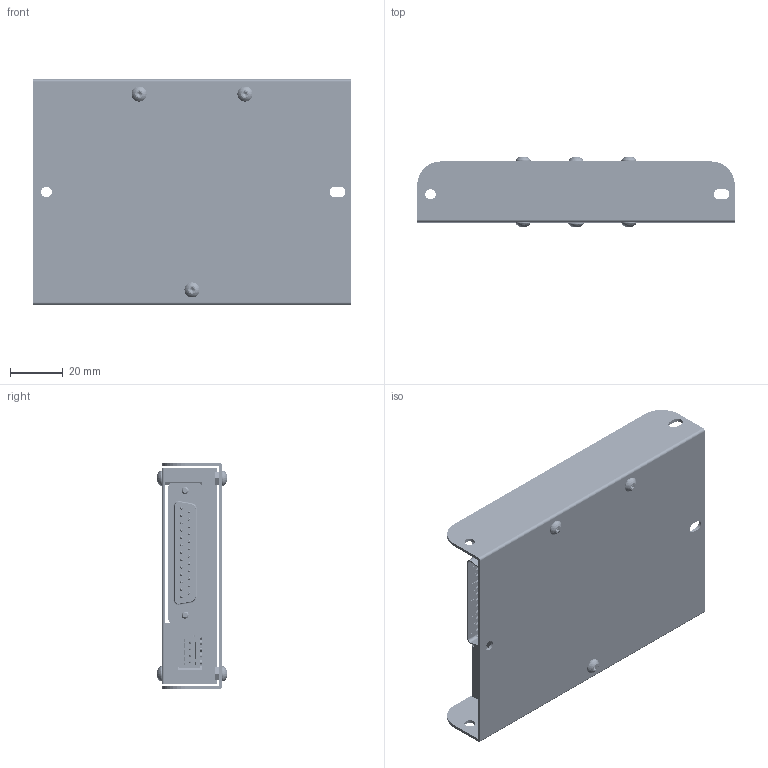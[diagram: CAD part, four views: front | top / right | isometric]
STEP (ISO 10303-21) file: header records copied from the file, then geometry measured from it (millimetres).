
FILE_DESCRIPTION (( 'STEP AP203' ), '1' );
FILE_NAME ('CuaETH_XY2.STEP', '2010-09-16T05:34:52', ( '' ), ( '' ), 'SwSTEP 2.0', 'SolidWorks 2011', '' );
FILE_SCHEMA (( 'CONFIG_CONTROL_DESIGN' ));
Products named in the file (14): CuaETH_XY2; XPort; Pin; 25SubD_M; DHS25-MA1; 14150_Défaut; socket button head screw_iso_ISO 7380 - M3 x 6 --- 6S; socket button head screw_iso_ISO 7380 - M3 x 12 --- 12S; Enclosure_Bottom; Enclosure_Top_Eth_XY2; Spacer_M3x05; Spacer_M3x14; 25-SubD; PcbBoard
Assembly tree (44 placements, depth 2):
  CuaETH_XY2
    Spacer_M3x14  x3
    Pin  x25
    25SubD_M
    14150_Défaut
    socket button head screw_iso_ISO 7380 - M3 x 12 --- 12S  x3
    25-SubD
    socket button head screw_iso_ISO 7380 - M3 x 6 --- 6S  x3
    Enclosure_Bottom
    PcbBoard
    Spacer_M3x05  x3
    XPort
    Enclosure_Top_Eth_XY2
  DHS25-MA1
Bounding box: 120 x 26.3 x 85.2 mm (x, y, z)
Volume: 47432.9 mm3; surface area: 87732.6 mm2
Topology: 74 solids, 77 shells, 3964 faces, 10165 edges, 6540 vertices
Faces by surface type: plane 1624, cylinder 1514, cone 610, bspline 192, torus 12, sphere 12
Entity records: 101567 total; most frequent: CARTESIAN_POINT 29860, ORIENTED_EDGE 14526, DIRECTION 14313, EDGE_CURVE 7263, AXIS2_PLACEMENT_3D 4796, VERTEX_POINT 4736, VECTOR 4721, LINE 4721
